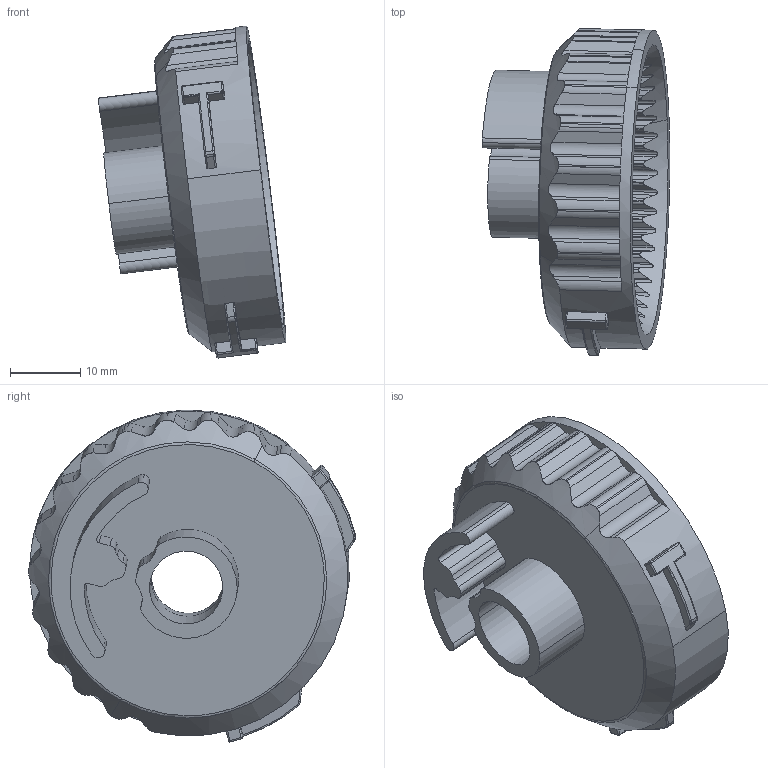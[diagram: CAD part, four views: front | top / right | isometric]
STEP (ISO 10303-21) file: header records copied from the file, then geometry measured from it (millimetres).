
FILE_DESCRIPTION(('CATIA V5 STEP Exchange'),'2;1');
FILE_NAME('C:\Users\Administrator\Desktop\kalundaoxiang_1.stp','2021-11-23T03:22:46+00:00',('none'),('none'),'CATIA Version 5 Release 20 GA (IN-10)','CATIA V5 STEP AP214','none');
FILE_SCHEMA(('AUTOMOTIVE_DESIGN { 1 0 10303 214 1 1 1 1 }'));
Length unit declared in the file: millimetre
Products named in the file (1): SHT0010363.1
Bounding box: 26.66 x 46.47 x 47.18 mm (x, y, z)
Volume: 10173.4 mm3; surface area: 7660.5 mm2
Topology: 1 solids, 1 shells, 472 faces, 1454 edges, 977 vertices
Faces by surface type: cylinder 294, plane 133, torus 17, sphere 12, extrusion 8, cone 6, revolution 2
Entity records: 18149 total; most frequent: CARTESIAN_POINT 6521, ORIENTED_EDGE 2884, DIRECTION 1702, EDGE_CURVE 1442, VERTEX_POINT 977, AXIS2_PLACEMENT_3D 720, B_SPLINE_CURVE_WITH_KNOTS 674, VECTOR 524
